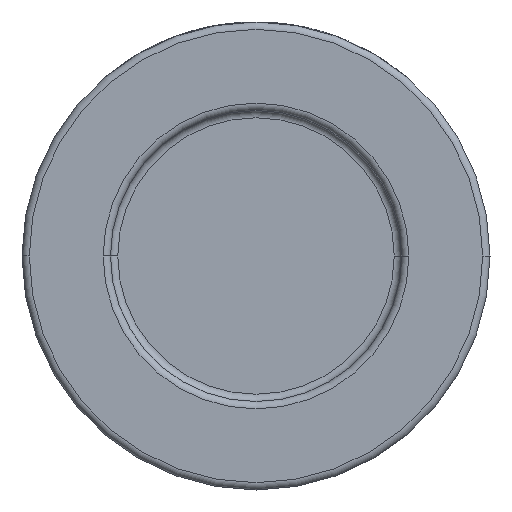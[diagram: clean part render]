
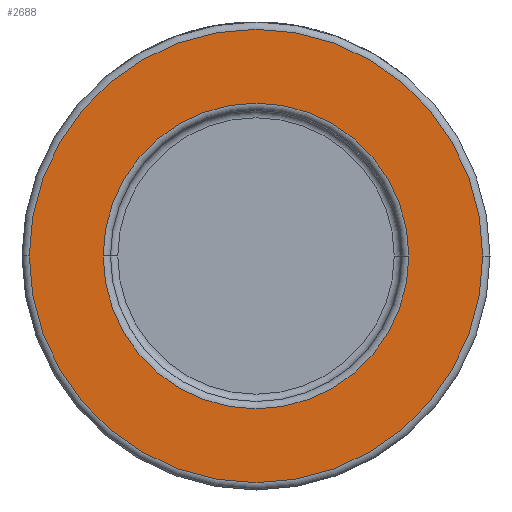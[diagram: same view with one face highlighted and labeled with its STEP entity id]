
A CAD part, front view. The second image highlights one B-rep face of the part: STEP entity #2688.
In plain terms, the highlighted planar face has unit normal (0, -1, 0).
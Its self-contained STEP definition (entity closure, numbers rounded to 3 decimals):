
#424 = CIRCLE ( 'NONE', #2474, 20.9 ) ;
#784 = CARTESIAN_POINT ( 'NONE',  ( 0., -22., 0. ) ) ;
#788 = CARTESIAN_POINT ( 'NONE',  ( 0., -22., 0. ) ) ;
#791 = ORIENTED_EDGE ( 'NONE', *, *, #2000, .T. ) ;
#1019 = DIRECTION ( 'NONE',  ( 0., -1., 0. ) ) ;
#1021 = DIRECTION ( 'NONE',  ( 0., -1., 0. ) ) ;
#1118 = CARTESIAN_POINT ( 'NONE',  ( 31., -22., 0. ) ) ;
#1171 = EDGE_CURVE ( 'NONE', #3795, #1331, #424, .T. ) ;
#1331 = VERTEX_POINT ( 'NONE', #3804 ) ;
#1466 = EDGE_CURVE ( 'NONE', #1629, #1915, #3400, .T. ) ;
#1515 = EDGE_CURVE ( 'NONE', #1331, #3795, #2370, .T. ) ;
#1629 = VERTEX_POINT ( 'NONE', #1118 ) ;
#1699 = EDGE_LOOP ( 'NONE', ( #2259, #1930 ) ) ;
#1818 = FACE_BOUND ( 'NONE', #1699, .T. ) ;
#1820 = EDGE_LOOP ( 'NONE', ( #2547, #791 ) ) ;
#1915 = VERTEX_POINT ( 'NONE', #4027 ) ;
#1930 = ORIENTED_EDGE ( 'NONE', *, *, #1515, .T. ) ;
#2000 = EDGE_CURVE ( 'NONE', #1915, #1629, #4369, .T. ) ;
#2010 = AXIS2_PLACEMENT_3D ( 'NONE', #4181, #1021, #3834 ) ;
#2042 = DIRECTION ( 'NONE',  ( 0., 1., 0. ) ) ;
#2259 = ORIENTED_EDGE ( 'NONE', *, *, #1171, .T. ) ;
#2340 = CARTESIAN_POINT ( 'NONE',  ( 0., -22., 0. ) ) ;
#2370 = CIRCLE ( 'NONE', #2662, 20.9 ) ;
#2474 = AXIS2_PLACEMENT_3D ( 'NONE', #788, #3620, #2863 ) ;
#2547 = ORIENTED_EDGE ( 'NONE', *, *, #1466, .T. ) ;
#2662 = AXIS2_PLACEMENT_3D ( 'NONE', #3014, #2042, #3983 ) ;
#2688 = ADVANCED_FACE ( 'NONE', ( #1818, #3585 ), #2781, .T. ) ;
#2781 = PLANE ( 'NONE',  #2010 ) ;
#2863 = DIRECTION ( 'NONE',  ( 1., 0., 0. ) ) ;
#3014 = CARTESIAN_POINT ( 'NONE',  ( 0., -22., 0. ) ) ;
#3107 = AXIS2_PLACEMENT_3D ( 'NONE', #2340, #1019, #4487 ) ;
#3271 = DIRECTION ( 'NONE',  ( 1., 0., 0. ) ) ;
#3400 = CIRCLE ( 'NONE', #4063, 31. ) ;
#3585 = FACE_OUTER_BOUND ( 'NONE', #1820, .T. ) ;
#3620 = DIRECTION ( 'NONE',  ( 0., 1., 0. ) ) ;
#3795 = VERTEX_POINT ( 'NONE', #3844 ) ;
#3804 = CARTESIAN_POINT ( 'NONE',  ( -20.9, -22., 0. ) ) ;
#3834 = DIRECTION ( 'NONE',  ( 1., 0., 0. ) ) ;
#3844 = CARTESIAN_POINT ( 'NONE',  ( 20.9, -22., 0. ) ) ;
#3983 = DIRECTION ( 'NONE',  ( 1., 0., 0. ) ) ;
#4027 = CARTESIAN_POINT ( 'NONE',  ( -31., -22., 0. ) ) ;
#4063 = AXIS2_PLACEMENT_3D ( 'NONE', #784, #4317, #3271 ) ;
#4181 = CARTESIAN_POINT ( 'NONE',  ( 32., -22., 0. ) ) ;
#4317 = DIRECTION ( 'NONE',  ( 0., -1., 0. ) ) ;
#4369 = CIRCLE ( 'NONE', #3107, 31. ) ;
#4487 = DIRECTION ( 'NONE',  ( 1., 0., 0. ) ) ;
